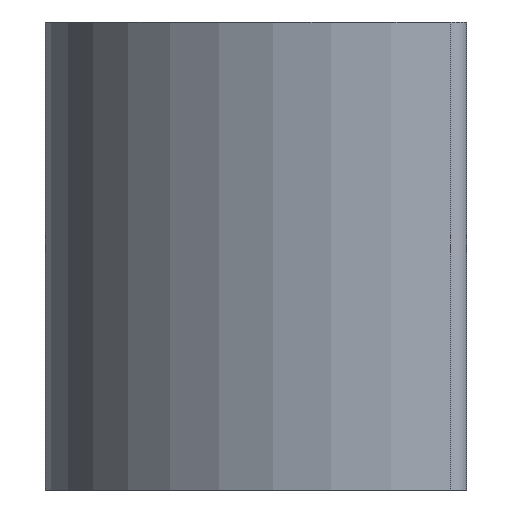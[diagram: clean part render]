
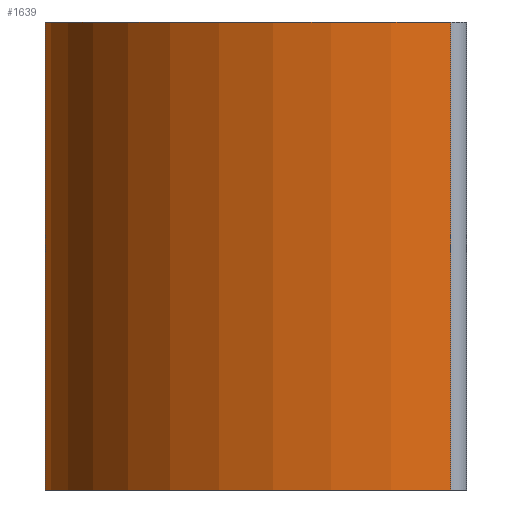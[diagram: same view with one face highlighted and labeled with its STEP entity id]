
A CAD part, left-side view. The second image highlights one B-rep face of the part: STEP entity #1639.
In plain terms, the highlighted cylindrical face has radius 37.5 mm (diameter 75 mm), a partial arc.
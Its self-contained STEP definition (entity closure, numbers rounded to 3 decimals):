
#181 = VERTEX_POINT ( 'NONE', #1056 ) ;
#260 = ORIENTED_EDGE ( 'NONE', *, *, #2102, .F. ) ;
#380 = EDGE_CURVE ( 'NONE', #2007, #1355, #825, .T. ) ;
#466 = CARTESIAN_POINT ( 'NONE',  ( 613.685, 332.985, 0. ) ) ;
#513 = FACE_OUTER_BOUND ( 'NONE', #4096, .T. ) ;
#593 = CARTESIAN_POINT ( 'NONE',  ( 656.543, 375.842, 0. ) ) ;
#825 = LINE ( 'NONE', #466, #1758 ) ;
#841 = CARTESIAN_POINT ( 'NONE',  ( 613.685, 332.985, 50. ) ) ;
#857 = CARTESIAN_POINT ( 'NONE',  ( 613.685, 332.985, 0. ) ) ;
#948 = DIRECTION ( 'NONE',  ( 1., 0., 0. ) ) ;
#954 = DIRECTION ( 'NONE',  ( 0., 0., 1. ) ) ;
#1056 = CARTESIAN_POINT ( 'NONE',  ( 656.543, 375.842, 50. ) ) ;
#1299 = LINE ( 'NONE', #593, #3674 ) ;
#1317 = CIRCLE ( 'NONE', #3343, 37.5 ) ;
#1355 = VERTEX_POINT ( 'NONE', #841 ) ;
#1449 = ORIENTED_EDGE ( 'NONE', *, *, #380, .T. ) ;
#1613 = CARTESIAN_POINT ( 'NONE',  ( 650.733, 338.795, 50. ) ) ;
#1639 = ADVANCED_FACE ( 'NONE', ( #513 ), #3747, .T. ) ;
#1687 = EDGE_CURVE ( 'NONE', #2049, #2007, #1317, .T. ) ;
#1758 = VECTOR ( 'NONE', #2708, 1000. ) ;
#1924 = DIRECTION ( 'NONE',  ( 1., 0., 0. ) ) ;
#1985 = CARTESIAN_POINT ( 'NONE',  ( 650.733, 338.795, 0. ) ) ;
#2007 = VERTEX_POINT ( 'NONE', #857 ) ;
#2040 = CIRCLE ( 'NONE', #2321, 37.5 ) ;
#2049 = VERTEX_POINT ( 'NONE', #3392 ) ;
#2102 = EDGE_CURVE ( 'NONE', #181, #1355, #2040, .T. ) ;
#2289 = AXIS2_PLACEMENT_3D ( 'NONE', #2830, #4093, #948 ) ;
#2321 = AXIS2_PLACEMENT_3D ( 'NONE', #1613, #954, #1924 ) ;
#2603 = DIRECTION ( 'NONE',  ( 0., 0., 1. ) ) ;
#2708 = DIRECTION ( 'NONE',  ( 0., 0., 1. ) ) ;
#2830 = CARTESIAN_POINT ( 'NONE',  ( 650.733, 338.795, 0. ) ) ;
#3200 = DIRECTION ( 'NONE',  ( 1., 0., 0. ) ) ;
#3214 = ORIENTED_EDGE ( 'NONE', *, *, #1687, .T. ) ;
#3220 = EDGE_CURVE ( 'NONE', #181, #2049, #1299, .T. ) ;
#3254 = ORIENTED_EDGE ( 'NONE', *, *, #3220, .T. ) ;
#3343 = AXIS2_PLACEMENT_3D ( 'NONE', #1985, #2603, #3200 ) ;
#3392 = CARTESIAN_POINT ( 'NONE',  ( 656.543, 375.842, 0. ) ) ;
#3674 = VECTOR ( 'NONE', #4042, 1000. ) ;
#3747 = CYLINDRICAL_SURFACE ( 'NONE', #2289, 37.5 ) ;
#4042 = DIRECTION ( 'NONE',  ( 0., 0., -1. ) ) ;
#4093 = DIRECTION ( 'NONE',  ( 0., 0., 1. ) ) ;
#4096 = EDGE_LOOP ( 'NONE', ( #1449, #260, #3254, #3214 ) ) ;
